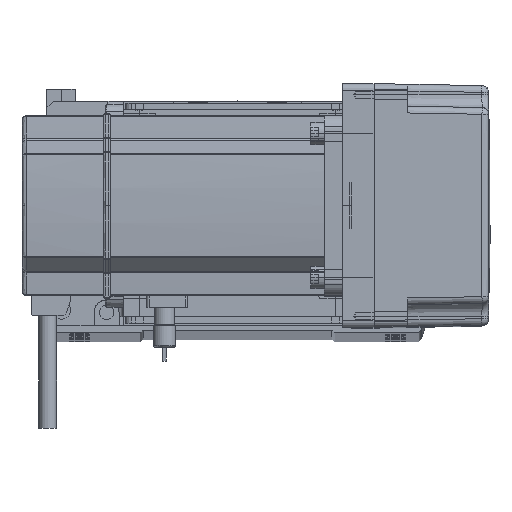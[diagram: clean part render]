
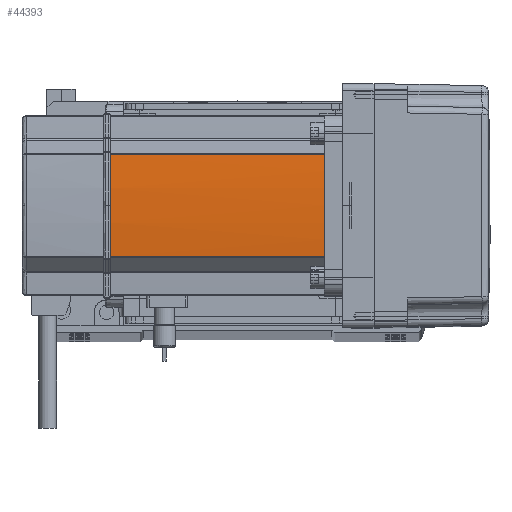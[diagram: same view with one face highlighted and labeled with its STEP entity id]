
A CAD part, top view. The second image highlights one B-rep face of the part: STEP entity #44393.
In plain terms, the highlighted cylindrical face has radius 270 mm (diameter 540 mm), a partial arc.
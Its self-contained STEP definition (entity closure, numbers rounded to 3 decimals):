
#241 = DIRECTION ( 'NONE',  ( 1., 0., 0. ) ) ;
#674 = DIRECTION ( 'NONE',  ( 0., 0., 1. ) ) ;
#3571 = DIRECTION ( 'NONE',  ( 0., 0., -1. ) ) ;
#4782 = CARTESIAN_POINT ( 'NONE',  ( -39.042, -22.724, 39. ) ) ;
#6066 = CIRCLE ( 'NONE', #37912, 270. ) ;
#9101 = VECTOR ( 'NONE', #14502, 1000. ) ;
#10125 = CIRCLE ( 'NONE', #11519, 270. ) ;
#11336 = ORIENTED_EDGE ( 'NONE', *, *, #54017, .T. ) ;
#11519 = AXIS2_PLACEMENT_3D ( 'NONE', #31931, #61976, #241 ) ;
#12521 = VERTEX_POINT ( 'NONE', #61117 ) ;
#14244 = VERTEX_POINT ( 'NONE', #4782 ) ;
#14502 = DIRECTION ( 'NONE',  ( 0., 0., -1. ) ) ;
#18926 = CARTESIAN_POINT ( 'NONE',  ( 230., 0., 134. ) ) ;
#20222 = ORIENTED_EDGE ( 'NONE', *, *, #24961, .F. ) ;
#21978 = VERTEX_POINT ( 'NONE', #28704 ) ;
#22083 = VERTEX_POINT ( 'NONE', #34091 ) ;
#22125 = LINE ( 'NONE', #58249, #9101 ) ;
#22653 = CARTESIAN_POINT ( 'NONE',  ( -39.042, -22.724, 0. ) ) ;
#23383 = ORIENTED_EDGE ( 'NONE', *, *, #47383, .T. ) ;
#24961 = EDGE_CURVE ( 'NONE', #14244, #12521, #6066, .T. ) ;
#27706 = DIRECTION ( 'NONE',  ( 1., 0., 0. ) ) ;
#28704 = CARTESIAN_POINT ( 'NONE',  ( -39.042, 22.724, 134. ) ) ;
#28835 = VERTEX_POINT ( 'NONE', #61881 ) ;
#29177 = CARTESIAN_POINT ( 'NONE',  ( 230., 0., 39. ) ) ;
#31931 = CARTESIAN_POINT ( 'NONE',  ( 230., 0., 134. ) ) ;
#32940 = AXIS2_PLACEMENT_3D ( 'NONE', #18926, #3571, #27706 ) ;
#34091 = CARTESIAN_POINT ( 'NONE',  ( -40., 0., 134. ) ) ;
#34857 = ORIENTED_EDGE ( 'NONE', *, *, #36824, .T. ) ;
#35123 = DIRECTION ( 'NONE',  ( 1., 0., 0. ) ) ;
#36679 = VECTOR ( 'NONE', #47320, 1000. ) ;
#36824 = EDGE_CURVE ( 'NONE', #28835, #22083, #10125, .T. ) ;
#37912 = AXIS2_PLACEMENT_3D ( 'NONE', #29177, #44007, #38647 ) ;
#38214 = LINE ( 'NONE', #22653, #36679 ) ;
#38560 = AXIS2_PLACEMENT_3D ( 'NONE', #54436, #674, #35123 ) ;
#38647 = DIRECTION ( 'NONE',  ( 1., 0., 0. ) ) ;
#39024 = EDGE_CURVE ( 'NONE', #22083, #21978, #42929, .T. ) ;
#40506 = EDGE_LOOP ( 'NONE', ( #34857, #60104, #11336, #20222, #23383 ) ) ;
#40754 = CYLINDRICAL_SURFACE ( 'NONE', #38560, 270. ) ;
#42929 = CIRCLE ( 'NONE', #32940, 270. ) ;
#44007 = DIRECTION ( 'NONE',  ( 0., 0., -1. ) ) ;
#44393 = ADVANCED_FACE ( 'NONE', ( #55345 ), #40754, .T. ) ;
#47320 = DIRECTION ( 'NONE',  ( 0., 0., 1. ) ) ;
#47383 = EDGE_CURVE ( 'NONE', #14244, #28835, #38214, .T. ) ;
#54017 = EDGE_CURVE ( 'NONE', #21978, #12521, #22125, .T. ) ;
#54436 = CARTESIAN_POINT ( 'NONE',  ( 230., 0., 0. ) ) ;
#55345 = FACE_OUTER_BOUND ( 'NONE', #40506, .T. ) ;
#58249 = CARTESIAN_POINT ( 'NONE',  ( -39.042, 22.724, 0. ) ) ;
#60104 = ORIENTED_EDGE ( 'NONE', *, *, #39024, .T. ) ;
#61117 = CARTESIAN_POINT ( 'NONE',  ( -39.042, 22.724, 39. ) ) ;
#61881 = CARTESIAN_POINT ( 'NONE',  ( -39.042, -22.724, 134. ) ) ;
#61976 = DIRECTION ( 'NONE',  ( 0., 0., -1. ) ) ;
